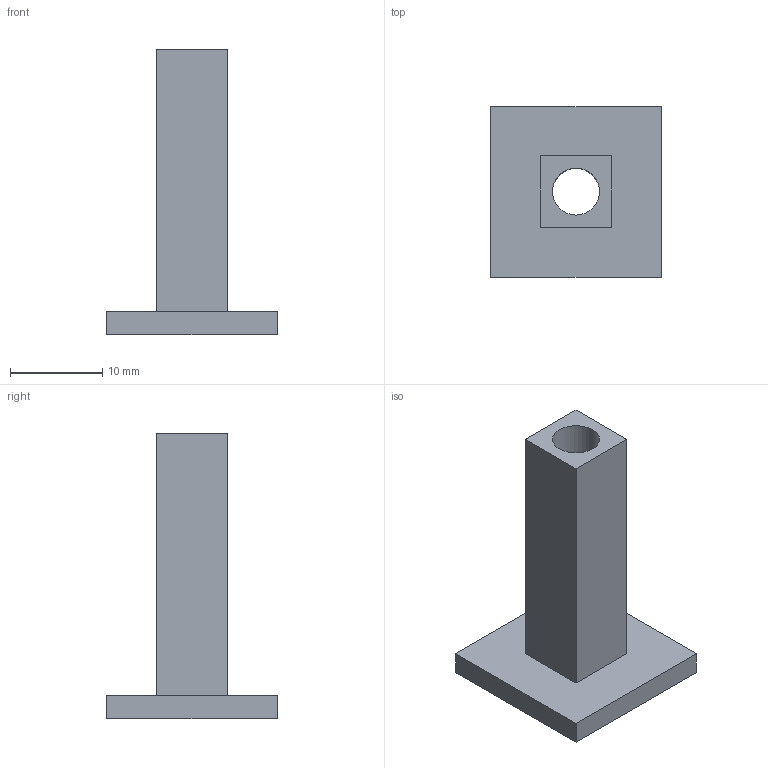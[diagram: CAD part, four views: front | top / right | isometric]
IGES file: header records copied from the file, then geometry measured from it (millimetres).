
Start section: Data from Parasolid IGES Translator 20.0.26, Copyright(c) 2006 Siemens P LM Software. All Rights Reserved.
Global section: file name: 9303942.igs; native system: By Siemens PLM Incorporated; preprocessor: XPlus GENERIC/IGES 20.0.26; author: Noname; organization: Noname; date: 20210922.163920; units: millimetre
Bounding box: 18.5 x 18.5 x 31 mm (x, y, z)
Surface area: 2227.7 mm2 (no closed solid volume)
Topology: 0 solids, 0 shells, 16 faces, 72 edges, 72 vertices
Faces by surface type: extrusion 13, revolution 3
